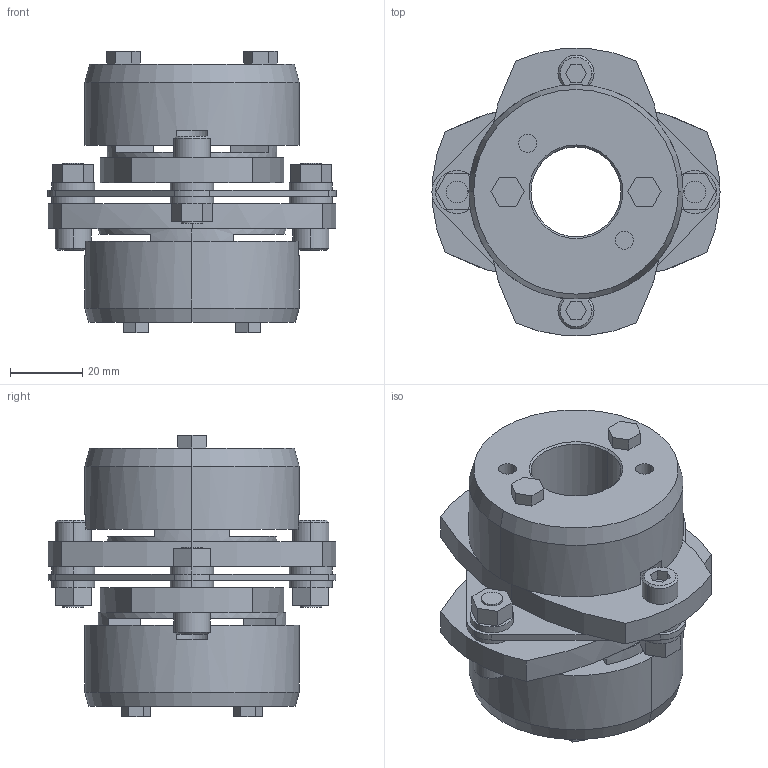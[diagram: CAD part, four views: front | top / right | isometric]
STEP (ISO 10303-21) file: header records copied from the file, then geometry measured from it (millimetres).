
FILE_DESCRIPTION((''),'2;1');
FILE_NAME('LCS-80T7-25×32.stp','2011-09-12T16:37:47',(''),(''),'AutoCAD STEP 2000i','AutoCAD 2000i',', , ');
FILE_SCHEMA(('CONFIG_CONTROL_DESIGN'));
Length unit declared in the file: millimetre
Products named in the file (13): LCS-80T7-24×32; 忣兜1; LC80T7-T032; LC80T7-T030; LC80T7-T028; LC80T7-T024-1; LC80T7-T024; LC80T7-T022; LC80T7-T019-1; LC80T7-T019; LC80T7-T017-1; LC80T7-T017; LCS80-ITA
Assembly tree (12 placements, depth 2):
  LCS-80T7-24×32
    忣兜1
    LC80T7-T032
    LC80T7-T030
    LC80T7-T028
    LC80T7-T024-1
    LC80T7-T024
    LC80T7-T022
    LC80T7-T019-1
    LC80T7-T019
    LC80T7-T017-1
    LC80T7-T017
    LCS80-ITA
Bounding box: 80 x 79.95 x 78.05 mm (x, y, z)
Volume: 149766.6 mm3; surface area: 43666.6 mm2
Topology: 1 solids, 1 shells, 243 faces, 600 edges, 392 vertices
Faces by surface type: plane 139, cylinder 84, cone 20
Entity records: 7521 total; most frequent: DIRECTION 1332, CARTESIAN_POINT 1248, ORIENTED_EDGE 1200, EDGE_CURVE 600, AXIS2_PLACEMENT_3D 476, VERTEX_POINT 392, VECTOR 380, LINE 380
